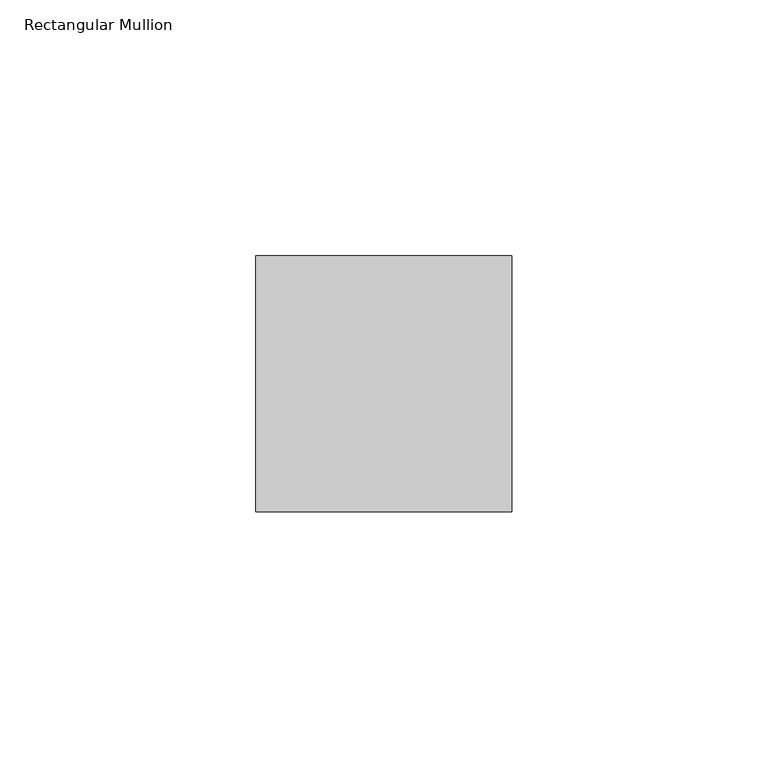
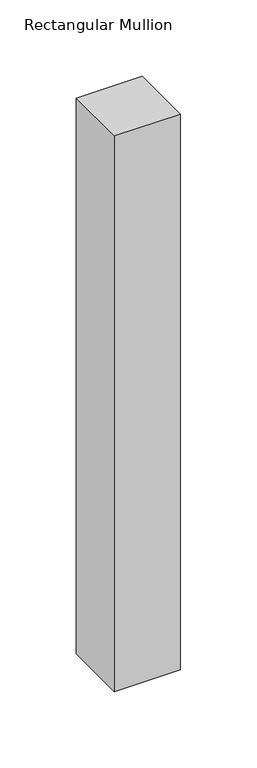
"""IFC4 building model written with IfcOpenShell, lengths in millimetres: member geometry, Rectangular Mullion : RSen_21_CWM_support profile 50x50_gen_duco projects."""

from ifc_helpers import new_model, si_unit, frame, origin, place, context, project, spatial, polyline, outline, extrude, source, transform, mapped, element, save


def rectangular_mullion_f7ae43f3(model_context):
    return source(origin(), model_context, "Body", "SweptSolid", [
        extrude(outline(polyline([(25.0, 1.0), (25.0, -49.0), (-25.0, -49.0), (-25.0, 1.0), (25.0, 1.0)])), frame((0.0, 0.0, -445.0), z_axis=(0.0, 0.0, 1.0), x_axis=(1.0, 0.0, 0.0)), (0.0, 0.0, 1.0), 445.0),
    ])


if __name__ == "__main__":
    model = new_model("IFC4")
    model_context = context("Model", 3, world=origin())
    ifc_project = project(units=[si_unit("LENGTHUNIT", "METRE", prefix="MILLI")], contexts=[model_context])
    site = spatial("IfcSite", under=ifc_project)
    building = spatial("IfcBuilding", under=site)
    placement = place(None, origin())
    rectangular_mullion_shape = rectangular_mullion_f7ae43f3(model_context)
    element("IfcMember", 1, ObjectType="Rectangular Mullion : RSen_21_CWM_support profile 50x50_gen_duco projects", at=placement, inside=building, context=model_context, shape_type="MappedRepresentation", body=[
        mapped(rectangular_mullion_shape, transform((0.0, 0.0, 0.0), x_axis=(1.0, 0.0, 0.0), y_axis=(0.0, 1.0, 0.0), z_axis=(0.0, 0.0, 1.0))),
    ])
    save(model, "model.ifc")
